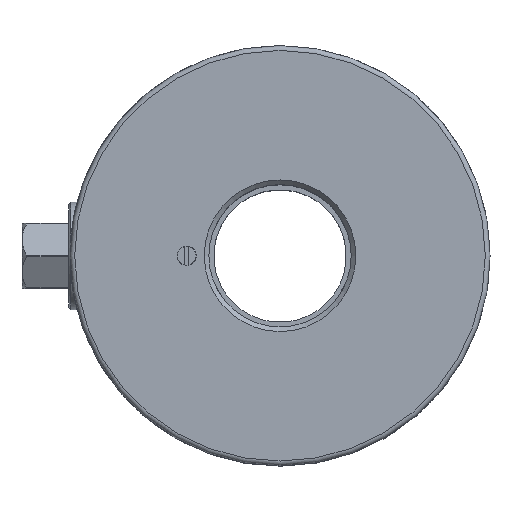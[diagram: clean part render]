
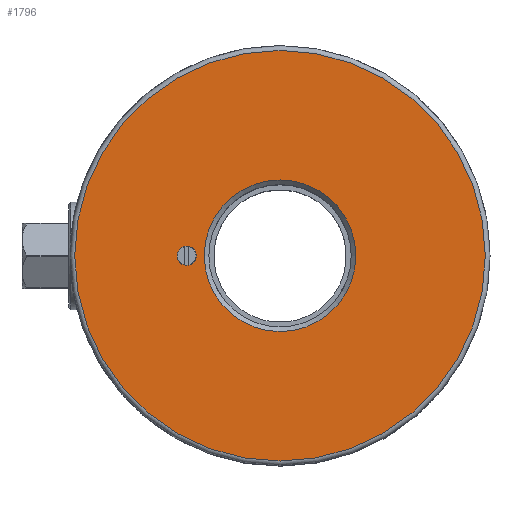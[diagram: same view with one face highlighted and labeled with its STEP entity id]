
A CAD part, top view. The second image highlights one B-rep face of the part: STEP entity #1796.
In plain terms, the highlighted planar face has unit normal (0, 0, 1).
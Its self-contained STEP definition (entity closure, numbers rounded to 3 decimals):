
#152=PLANE('',#1914);
#236=ORIENTED_EDGE('',*,*,#491,.F.);
#237=ORIENTED_EDGE('',*,*,#497,.T.);
#238=ORIENTED_EDGE('',*,*,#490,.T.);
#490=EDGE_CURVE('',#628,#628,#734,.F.);
#491=EDGE_CURVE('',#629,#629,#735,.T.);
#497=EDGE_CURVE('',#635,#635,#741,.T.);
#628=VERTEX_POINT('',#2499);
#629=VERTEX_POINT('',#2502);
#635=VERTEX_POINT('',#2520);
#734=CIRCLE('',#1901,44.);
#735=CIRCLE('',#1903,2.067);
#741=CIRCLE('',#1915,16.25);
#830=EDGE_LOOP('',(#236));
#831=EDGE_LOOP('',(#237));
#832=EDGE_LOOP('',(#238));
#983=FACE_BOUND('',#830,.T.);
#984=FACE_BOUND('',#831,.T.);
#985=FACE_BOUND('',#832,.T.);
#1796=ADVANCED_FACE('',(#983,#984,#985),#152,.F.);
#1901=AXIS2_PLACEMENT_3D('',#2498,#2113,#2114);
#1903=AXIS2_PLACEMENT_3D('',#2501,#2117,#2118);
#1914=AXIS2_PLACEMENT_3D('',#2518,#2139,#2140);
#1915=AXIS2_PLACEMENT_3D('',#2519,#2141,#2142);
#2113=DIRECTION('',(0.,0.,-1.));
#2114=DIRECTION('',(1.,0.,0.));
#2117=DIRECTION('',(0.,0.,1.));
#2118=DIRECTION('',(1.,0.,0.));
#2139=DIRECTION('',(0.,0.,-1.));
#2140=DIRECTION('',(1.,0.,0.));
#2141=DIRECTION('',(0.,0.,-1.));
#2142=DIRECTION('',(1.,0.,0.));
#2498=CARTESIAN_POINT('',(0.,0.,60.));
#2499=CARTESIAN_POINT('',(44.,0.,60.));
#2501=CARTESIAN_POINT('',(-20.,0.,60.));
#2502=CARTESIAN_POINT('',(-17.933,0.,60.));
#2518=CARTESIAN_POINT('',(-45.,0.,60.));
#2519=CARTESIAN_POINT('',(0.,0.,60.));
#2520=CARTESIAN_POINT('',(16.25,0.,60.));
